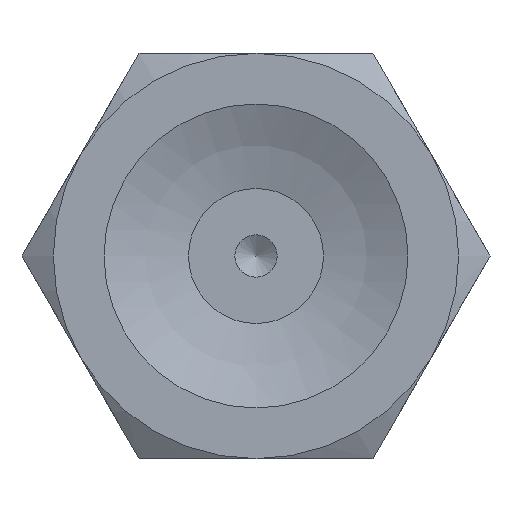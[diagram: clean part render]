
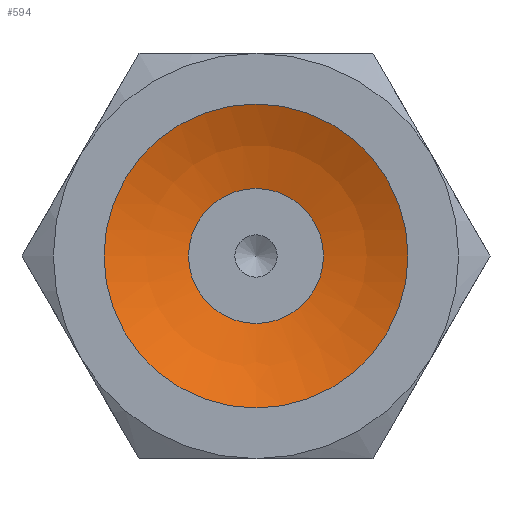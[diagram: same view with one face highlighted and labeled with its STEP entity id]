
A CAD part, front view. The second image highlights one B-rep face of the part: STEP entity #594.
In plain terms, the highlighted spherical face has radius 10.203 mm.
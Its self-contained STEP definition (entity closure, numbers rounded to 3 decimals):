
#594=ADVANCED_FACE('',(#939,#940),#941,.F.);
#939=FACE_OUTER_BOUND('',#1297,.T.);
#940=FACE_OUTER_BOUND('',#1298,.T.);
#941=SPHERICAL_SURFACE('',#1299,10.203);
#1297=EDGE_LOOP('',(#2244));
#1298=EDGE_LOOP('',(#2245));
#1299=AXIS2_PLACEMENT_3D('',#2246,#2247,#2248);
#2244=ORIENTED_EDGE('',*,*,#2539,.T.);
#2245=ORIENTED_EDGE('',*,*,#2528,.F.);
#2246=CARTESIAN_POINT('',(0.,-9.157,0.));
#2247=DIRECTION('',(0.0,-1.0,0.));
#2248=DIRECTION('',(1.0,0.0,0.0));
#2528=EDGE_CURVE('',#2957,#2957,#2958,.T.);
#2539=EDGE_CURVE('',#2979,#2979,#2980,.T.);
#2957=VERTEX_POINT('',#4015);
#2958=CIRCLE('',#4016,2.);
#2979=VERTEX_POINT('',#4037);
#2980=CIRCLE('',#4038,4.5);
#4015=CARTESIAN_POINT('',(0.0,0.848,-2.));
#4016=AXIS2_PLACEMENT_3D('',#4393,#4394,#4395);
#4037=CARTESIAN_POINT('',(0.0,0.,-4.5));
#4038=AXIS2_PLACEMENT_3D('',#4426,#4427,#4428);
#4393=CARTESIAN_POINT('',(0.0,0.848,0.0));
#4394=DIRECTION('',(0.0,-1.0,0.));
#4395=DIRECTION('',(0.0,0.,-1.0));
#4426=CARTESIAN_POINT('',(0.0,0.,0.0));
#4427=DIRECTION('',(0.0,-1.0,0.));
#4428=DIRECTION('',(0.0,0.,-1.0));
